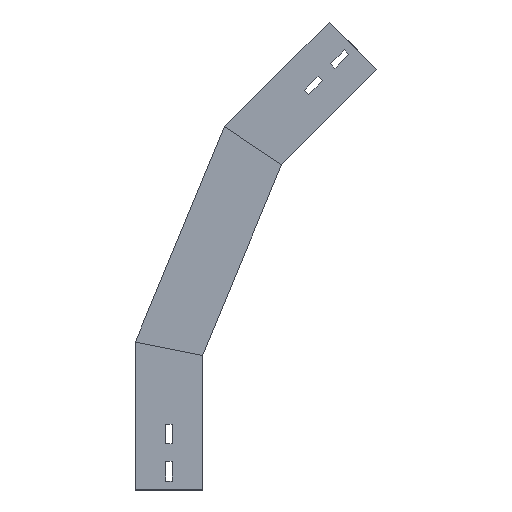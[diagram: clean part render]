
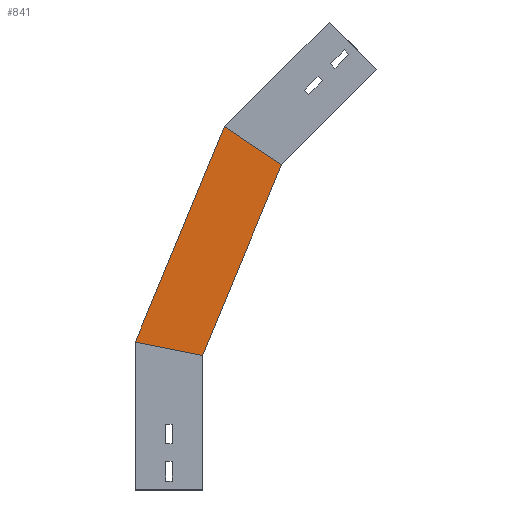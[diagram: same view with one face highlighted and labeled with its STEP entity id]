
A CAD part, left-side view. The second image highlights one B-rep face of the part: STEP entity #841.
In plain terms, the highlighted planar face has unit normal (-1, 0, 0) as drawn and (1, 0, 0) by its records, which use the part's own axes.
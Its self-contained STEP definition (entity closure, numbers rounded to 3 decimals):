
#45 = CARTESIAN_POINT ( 'NONE',  ( 0., 75.609, 163.448 ) ) ;
#47 = EDGE_CURVE ( 'NONE', #1157, #521, #932, .T. ) ;
#113 = EDGE_CURVE ( 'NONE', #1157, #667, #595, .T. ) ;
#118 = AXIS2_PLACEMENT_3D ( 'NONE', #806, #719, #130 ) ;
#130 = DIRECTION ( 'NONE',  ( 0., 0., -1. ) ) ;
#141 = CARTESIAN_POINT ( 'NONE',  ( 0., 75., 164.918 ) ) ;
#146 = ORIENTED_EDGE ( 'NONE', *, *, #868, .F. ) ;
#171 = CARTESIAN_POINT ( 'NONE',  ( 0., -128.004, 335.774 ) ) ;
#179 = ORIENTED_EDGE ( 'NONE', *, *, #574, .T. ) ;
#200 = DIRECTION ( 'NONE',  ( 0., -0.981, -0.195 ) ) ;
#240 = DIRECTION ( 'NONE',  ( 0., -0.383, 0.924 ) ) ;
#299 = CARTESIAN_POINT ( 'NONE',  ( 0., -24.435, 404.976 ) ) ;
#366 = VECTOR ( 'NONE', #739, 1000. ) ;
#473 = PLANE ( 'NONE',  #118 ) ;
#516 = CARTESIAN_POINT ( 'NONE',  ( 0., 0., 150. ) ) ;
#521 = VERTEX_POINT ( 'NONE', #516 ) ;
#548 = DIRECTION ( 'NONE',  ( 0., -0.383, 0.924 ) ) ;
#574 = EDGE_CURVE ( 'NONE', #667, #889, #1412, .T. ) ;
#595 = LINE ( 'NONE', #45, #1391 ) ;
#611 = CARTESIAN_POINT ( 'NONE',  ( 0., -88.017, 362.492 ) ) ;
#667 = VERTEX_POINT ( 'NONE', #299 ) ;
#676 = ORIENTED_EDGE ( 'NONE', *, *, #113, .T. ) ;
#719 = DIRECTION ( 'NONE',  ( 1., 0., 0. ) ) ;
#739 = DIRECTION ( 'NONE',  ( 0., -0.831, -0.556 ) ) ;
#806 = CARTESIAN_POINT ( 'NONE',  ( 0., 6.318, 134.746 ) ) ;
#812 = LINE ( 'NONE', #1403, #957 ) ;
#822 = CARTESIAN_POINT ( 'NONE',  ( 0., -28.701, 144.291 ) ) ;
#824 = FACE_OUTER_BOUND ( 'NONE', #826, .T. ) ;
#826 = EDGE_LOOP ( 'NONE', ( #676, #179, #146, #1401 ) ) ;
#834 = VECTOR ( 'NONE', #200, 1000. ) ;
#841 = ADVANCED_FACE ( 'NONE', ( #824 ), #473, .T. ) ;
#868 = EDGE_CURVE ( 'NONE', #521, #889, #812, .T. ) ;
#889 = VERTEX_POINT ( 'NONE', #611 ) ;
#932 = LINE ( 'NONE', #822, #834 ) ;
#957 = VECTOR ( 'NONE', #240, 1000. ) ;
#1157 = VERTEX_POINT ( 'NONE', #141 ) ;
#1391 = VECTOR ( 'NONE', #548, 1000. ) ;
#1401 = ORIENTED_EDGE ( 'NONE', *, *, #47, .F. ) ;
#1403 = CARTESIAN_POINT ( 'NONE',  ( 0., 6.318, 134.746 ) ) ;
#1412 = LINE ( 'NONE', #171, #366 ) ;
